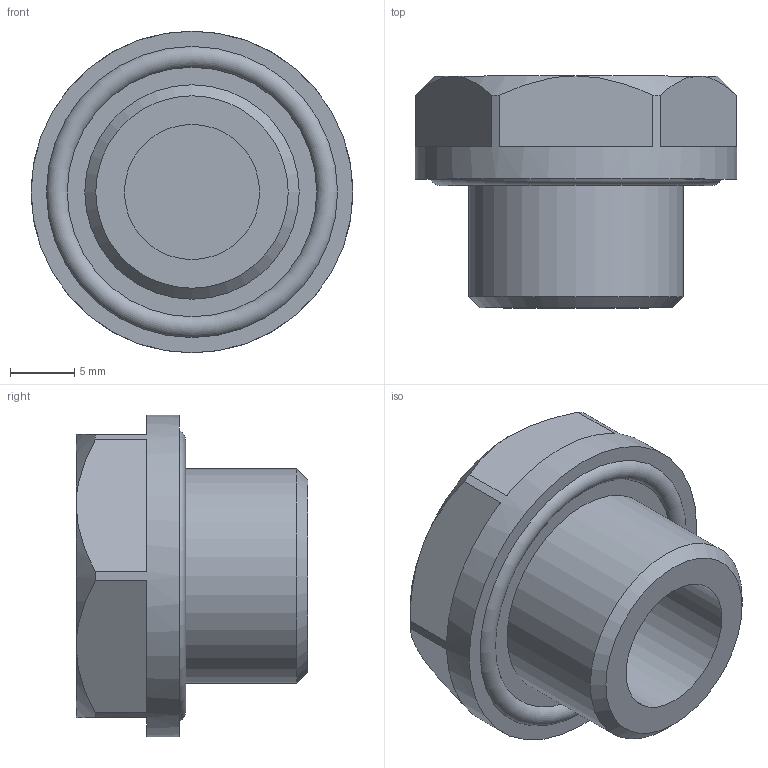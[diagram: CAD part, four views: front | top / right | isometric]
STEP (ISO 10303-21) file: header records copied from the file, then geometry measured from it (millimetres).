
FILE_DESCRIPTION( ( 'STEP AP203' ), '1' );
FILE_NAME( 'C:/Temp/Ganter_Step_05_03_2020/data/3_5/gn740_2/Threaded plug GN 740.2-G3_8.stp', '2020-03-12T13:43:55', ( 'License CC BY-ND 4.0' ), ( 'CADENAS' ), ' ', 'PARTsolutions', ' ' );
FILE_SCHEMA( ( 'CONFIG_CONTROL_DESIGN' ) );
Length unit declared in the file: millimetre
Products named in the file (1): _Threaded plug GN 740.2-G3/8
Bounding box: 25 x 18 x 25 mm (x, y, z)
Volume: 4332.6 mm3; surface area: 2612.3 mm2
Topology: 1 solids, 1 shells, 57 faces, 141 edges, 92 vertices
Faces by surface type: plane 45, cone 7, cylinder 4, torus 1
Full cylindrical faces by diameter (mm): 10.5 x1, 16.662 x1, 17 x1, 25 x1
Entity records: 1739 total; most frequent: CARTESIAN_POINT 373, ORIENTED_EDGE 266, DIRECTION 265, EDGE_CURVE 133, LINE 93, VECTOR 93, VERTEX_POINT 90, AXIS2_PLACEMENT_3D 86
